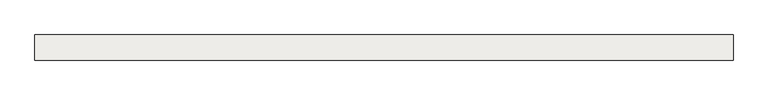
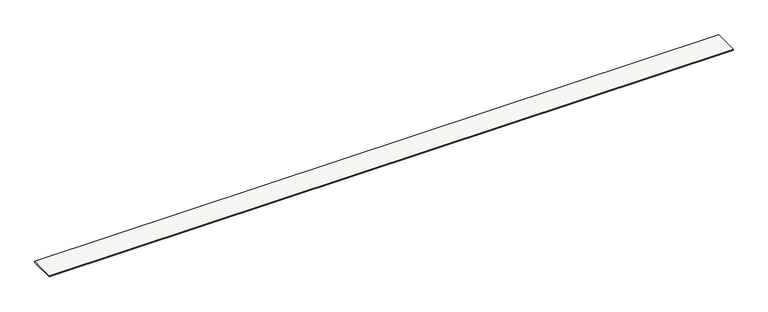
"""IFC4 building model written with IfcOpenShell, lengths in millimetres: slab geometry, Sol-02 - Tablette bois 2cm."""

from ifc_helpers import new_model, si_unit, origin, origin_with_axes, place, context, project, spatial, polyline, outline, extrude, source, transform, mapped, element, save


def slab_7a1826e9(model_context):
    return source(origin(), model_context, "Body", "SweptSolid", [
        extrude(outline(polyline([(50311.9999476, 0.6914909), (40611.9999476, 0.6914909), (40611.9999476, 350.0), (50311.9999476, 350.0), (50311.9999476, 0.6914909)])), origin_with_axes(), (0.0, 0.0, 1.0), 20.0),
    ])


if __name__ == "__main__":
    model = new_model("IFC4")
    model_context = context("Model", 3, world=origin())
    ifc_project = project(units=[si_unit("LENGTHUNIT", "METRE", prefix="MILLI")], contexts=[model_context])
    site = spatial("IfcSite", under=ifc_project)
    building = spatial("IfcBuilding", under=site)
    placement = place(None, origin())
    slab_shape = slab_7a1826e9(model_context)
    element("IfcSlab", 1, ObjectType="Sol-02 - Tablette bois 2cm", at=placement, inside=building, context=model_context, shape_type="MappedRepresentation", body=[
        mapped(slab_shape, transform((0.0, 0.0, 0.0), x_axis=(1.0, 0.0, 0.0), y_axis=(0.0, 1.0, 0.0), z_axis=(0.0, 0.0, 1.0))),
    ])
    save(model, "model.ifc")
